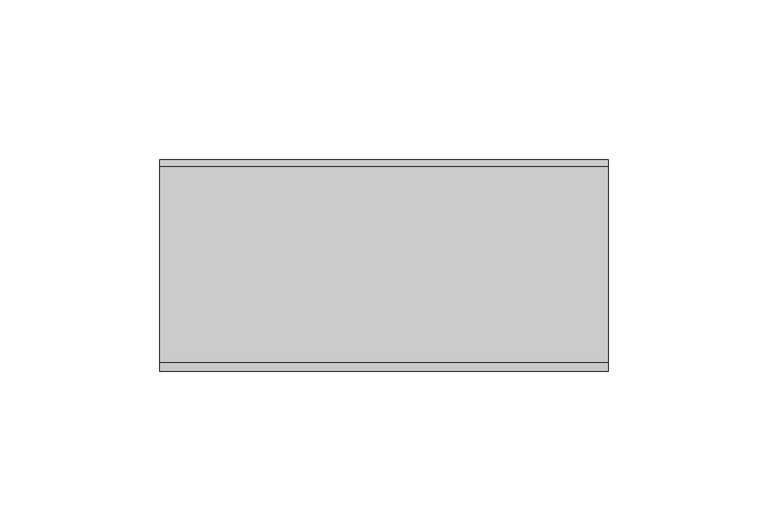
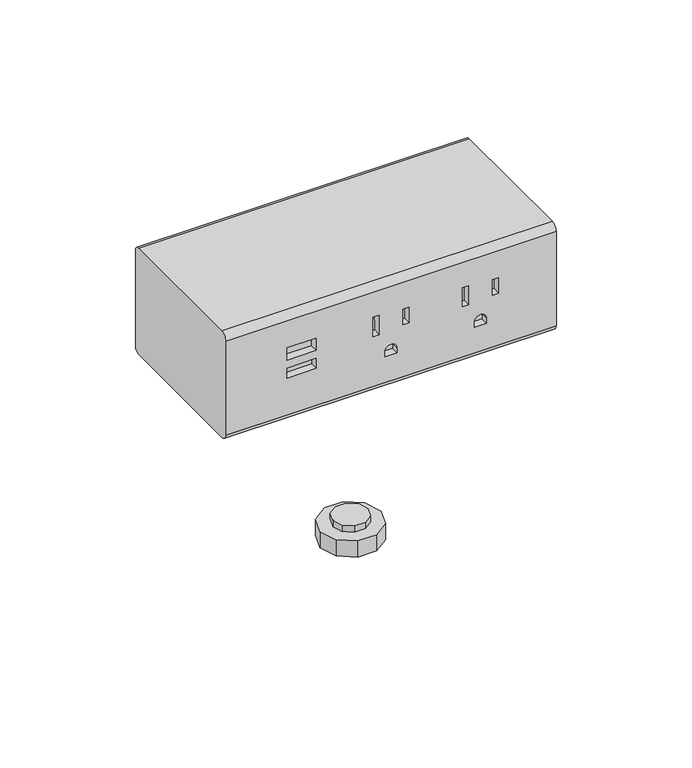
"""IFC4 building model written with IfcOpenShell, lengths in millimetres: furniture geometry, HON - Voi - Dean Power Module Clamp : Dean Power Module Clamp."""

from ifc_helpers import new_model, si_unit, frame, origin, place, context, project, spatial, polyline, circle_curve, ellipse_curve, outline, extrude, source, transform, mapped, element, save
from ifc_brep_helpers import plane_surface, cylinder_surface, revolved_surface, advanced_brep


def furniture_91dbd727(model_context):
    return source(origin(), model_context, "Body", "SolidModel", [
        advanced_brep(
        [(70.5359503, 0.5643146, 772.9745615), (70.5359503, 0.5643104, 816.3711592), (70.5359503, -1.5317365, 818.4672057), (70.5359503, -62.9772354, 818.4671998), (70.5359503, -65.8131747, 815.63126), (70.5359503, -65.8131706, 773.165726), (70.5359503, -63.3626237, 770.7151795), (70.5359503, -1.6950611, 770.7151854), (-70.2041887, 0.5643146, 772.9745615), (-70.2041887, -1.6950611, 770.7151854), (-70.2041887, -63.3626237, 770.7151795), (-70.2041887, -65.8131706, 773.165726), (-70.2041887, -65.8131747, 815.63126), (-70.2041887, -62.9772354, 818.4671998), (-70.2041887, -1.5317365, 818.4672057), (-70.2041887, 0.5643104, 816.3711592), (-44.1246409, -65.8131735, 803.4423383), (-31.6786528, -65.8131735, 803.4423383), (-31.6786528, -65.813173, 797.949968), (-44.1246409, -65.813173, 797.949968), (-31.6786528, -65.8131722, 789.8076724), (-44.1246409, -65.8131722, 789.8076724), (-44.1246409, -65.8131727, 794.3328658), (-31.6786528, -65.8131727, 794.3328658), (-7.4979703, -65.8131736, 804.3095852), (-4.8055656, -65.8131736, 804.3095852), (-4.8055656, -65.8131728, 795.6373337), (-7.4979703, -65.8131728, 795.6373337), (5.2988974, -65.8131735, 803.4423383), (7.9452368, -65.8131735, 803.4423383), (7.9452368, -65.8131729, 796.4804521), (5.2988974, -65.8131729, 796.4804521), (2.8398434, -65.8131719, 786.8428137), (2.8398434, -65.8131717, 784.8174958), (-2.4433551, -65.8131717, 784.8174958), (-2.4433551, -65.8131719, 786.8428137), (30.6020297, -65.8131736, 804.3095852), (33.2944344, -65.8131736, 804.3095852), (33.2944344, -65.8131728, 795.6373337), (30.6020297, -65.8131728, 795.6373337), (43.3988974, -65.8131735, 803.4423383), (46.0452368, -65.8131735, 803.4423383), (46.0452368, -65.8131729, 796.4804521), (43.3988974, -65.8131729, 796.4804521), (40.9398434, -65.8131719, 786.8428137), (40.9398434, -65.8131717, 784.8174958), (35.6566449, -65.8131717, 784.8174958), (35.6566449, -65.8131719, 786.8428137), (-31.6786528, -62.1692992, 803.394078), (-44.1246409, -62.1692992, 803.394078), (-44.1246409, -62.2420285, 797.902671), (-31.6786528, -62.2420285, 797.902671), (-44.1246409, -62.3498478, 789.7618035), (-31.6786528, -62.3498478, 789.7618035), (-31.6786528, -62.2899258, 794.2862031), (-44.1246409, -62.2899258, 794.2862031), (-4.8055656, -62.1578152, 804.2611729), (-7.4979703, -62.1578152, 804.2611729), (-7.4979703, -62.2726521, 795.5904423), (-4.8055656, -62.2726521, 795.5904423), (7.9452368, -62.1692992, 803.394078), (5.2988974, -62.1692992, 803.394078), (5.2988974, -62.2614877, 796.4334128), (7.9452368, -62.2614877, 796.4334128), (2.8398434, -62.4159272, 784.772502), (2.8398434, -62.3891082, 786.7974647), (-2.4433551, -62.3891082, 786.7974647), (-2.4433551, -62.4159272, 784.772502), (33.2944344, -62.1578152, 804.2611729), (30.6020297, -62.1578152, 804.2611729), (30.6020297, -62.2726521, 795.5904423), (33.2944344, -62.2726521, 795.5904423), (46.0452368, -62.1692992, 803.394078), (43.3988974, -62.1692992, 803.394078), (43.3988974, -62.2614877, 796.4334128), (46.0452368, -62.2614877, 796.4334128), (40.9398434, -62.4159272, 784.772502), (40.9398434, -62.3891082, 786.7974647), (35.6566449, -62.3891082, 786.7974647), (35.6566449, -62.4159272, 784.772502)],
        [
            (0, 1),
            (1, 2, circle_curve(frame((70.5359503, -1.5317363, 816.371159), z_axis=(1.0, 0.0, 0.0), x_axis=(0.0, -0.9483236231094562, -0.31730475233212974)), 2.0960467)),
            (2, 3),
            (3, 4, circle_curve(frame((70.5359503, -62.9772351, 815.6312602), z_axis=(1.0, 0.0, 0.0), x_axis=(0.0, -0.9483236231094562, -0.31730475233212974)), 2.8359396)),
            (4, 5),
            (5, 6, circle_curve(frame((70.5359503, -63.3626239, 773.1657262), z_axis=(1.0, 0.0, 0.0), x_axis=(0.0, -0.9483236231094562, -0.31730475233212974)), 2.4505467)),
            (6, 7),
            (7, 0, circle_curve(frame((70.5359503, -1.6950614, 772.9745613), z_axis=(1.0, 0.0, 0.0), x_axis=(0.0, -0.9483236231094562, -0.31730475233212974)), 2.2593759)),
            (8, 9, circle_curve(frame((-70.2041887, -1.6950614, 772.9745613), z_axis=(-1.0, 0.0, 0.0), x_axis=(0.0, -0.9483236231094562, -0.31730475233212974)), 2.2593759)),
            (9, 10),
            (10, 11, circle_curve(frame((-70.2041887, -63.3626239, 773.1657262), z_axis=(-1.0, 0.0, 0.0), x_axis=(0.0, -0.9483236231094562, -0.31730475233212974)), 2.4505467)),
            (11, 12),
            (12, 13, circle_curve(frame((-70.2041887, -62.9772351, 815.6312602), z_axis=(-1.0, 0.0, 0.0), x_axis=(0.0, -0.9483236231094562, -0.31730475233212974)), 2.8359396)),
            (13, 14),
            (14, 15, circle_curve(frame((-70.2041887, -1.5317363, 816.371159), z_axis=(-1.0, 0.0, 0.0), x_axis=(0.0, -0.9483236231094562, -0.31730475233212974)), 2.0960467)),
            (15, 8),
            (0, 8),
            (15, 1),
            (14, 2),
            (13, 3),
            (12, 4),
            (11, 5),
            (16, 17),
            (17, 18),
            (18, 19),
            (19, 16),
            (20, 21),
            (21, 22),
            (22, 23),
            (23, 20),
            (24, 25),
            (25, 26),
            (26, 27),
            (27, 24),
            (28, 29),
            (29, 30),
            (30, 31),
            (31, 28),
            (32, 33),
            (33, 34),
            (34, 35),
            (35, 32, ellipse_curve(frame((0.1982441, -65.8131719, 786.8428137), z_axis=(0.0, 0.9999999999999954, 9.608515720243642e-08), x_axis=(0.0, -9.608514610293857e-08, 0.9999999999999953)), 2.641831, 2.6415993)),
            (36, 37),
            (37, 38),
            (38, 39),
            (39, 36),
            (40, 41),
            (41, 42),
            (42, 43),
            (43, 40),
            (44, 45),
            (45, 46),
            (46, 47),
            (47, 44, ellipse_curve(frame((38.2982441, -65.8131719, 786.8428137), z_axis=(0.0, 0.9999999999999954, 9.608515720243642e-08), x_axis=(0.0, -9.608514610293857e-08, 0.9999999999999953)), 2.641831, 2.6415993)),
            (10, 6),
            (9, 7),
            (48, 49),
            (49, 50),
            (50, 51),
            (51, 48),
            (52, 53),
            (53, 54),
            (54, 55),
            (55, 52),
            (56, 57),
            (57, 58),
            (58, 59),
            (59, 56),
            (60, 61),
            (61, 62),
            (62, 63),
            (63, 60),
            (64, 65),
            (65, 66, circle_curve(frame((0.1982441, -62.3891082, 786.7974647), z_axis=(0.0, -0.9999123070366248, 0.013243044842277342), x_axis=(1.0, 0.0, 0.0)), 2.6415993)),
            (66, 67),
            (67, 64),
            (68, 69),
            (69, 70),
            (70, 71),
            (71, 68),
            (72, 73),
            (73, 74),
            (74, 75),
            (75, 72),
            (76, 77),
            (77, 78, circle_curve(frame((38.2982441, -62.3891082, 786.7974647), z_axis=(0.0, -0.9999123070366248, 0.013243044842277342), x_axis=(1.0, 0.0, 0.0)), 2.6415993)),
            (78, 79),
            (79, 76),
            (48, 17),
            (16, 49),
            (19, 50),
            (18, 51),
            (52, 21),
            (20, 53),
            (23, 54),
            (22, 55),
            (56, 25),
            (24, 57),
            (27, 58),
            (26, 59),
            (60, 29),
            (28, 61),
            (31, 62),
            (30, 63),
            (64, 33),
            (32, 65),
            (35, 66),
            (34, 67),
            (68, 37),
            (36, 69),
            (39, 70),
            (38, 71),
            (72, 41),
            (40, 73),
            (43, 74),
            (42, 75),
            (76, 45),
            (44, 77),
            (47, 78),
            (46, 79),
        ],
        [
            plane_surface(frame((70.5359503, 0.5643104, 816.4351737), z_axis=(1.0000000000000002, 0.0, 0.0), x_axis=(0.0, -9.608515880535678e-08, 0.9999999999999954))),
            plane_surface(frame((-70.2041887, 0.5643104, 816.4351737), z_axis=(-1.0000000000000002, 0.0, 0.0), x_axis=(0.0, 9.608515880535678e-08, -0.9999999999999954))),
            plane_surface(frame((70.5359503, 0.5643146, 772.9745615), z_axis=(0.0, 0.9999999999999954, 9.608515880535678e-08), x_axis=(-1.0, 0.0, 0.0))),
            cylinder_surface(frame((-70.2041887, -1.5317363, 816.371159), z_axis=(1.0, 0.0, 0.0), x_axis=(0.0, -0.9483236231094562, -0.31730475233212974)), 2.0960467),
            plane_surface(frame((70.5359503, -1.5317365, 818.4672057), z_axis=(0.0, -9.608515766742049e-08, 0.9999999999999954), x_axis=(-1.0, 0.0, 0.0))),
            cylinder_surface(frame((-70.2041887, -62.9772351, 815.6312602), z_axis=(1.0, 0.0, 0.0), x_axis=(0.0, -0.9483236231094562, -0.31730475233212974)), 2.8359396),
            plane_surface(frame((70.5359503, -65.8131747, 815.63126), z_axis=(0.0, -0.9999999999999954, -9.608515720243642e-08), x_axis=(-1.0, 0.0, 0.0))),
            cylinder_surface(frame((-70.2041887, -63.3626239, 773.1657262), z_axis=(1.0, 0.0, 0.0), x_axis=(0.0, -0.9483236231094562, -0.31730475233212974)), 2.4505467),
            plane_surface(frame((70.5359503, -63.3626237, 770.7151795), z_axis=(0.0, 9.608515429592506e-08, -0.9999999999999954), x_axis=(-1.0, 0.0, 0.0))),
            cylinder_surface(frame((-70.2041887, -1.6950614, 772.9745613), z_axis=(1.0, 0.0, 0.0), x_axis=(0.0, -0.9483236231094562, -0.31730475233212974)), 2.2593759),
            plane_surface(frame((-44.1246409, -62.1692992, 803.394078), z_axis=(0.0, -0.9999123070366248, 0.013243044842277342), x_axis=(1.0, 0.0, 0.0))),
            plane_surface(frame((-31.6786528, -73.7612869, 803.5476047), z_axis=(0.0, -0.013243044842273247, -0.9999123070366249), x_axis=(0.0, 0.9999123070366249, -0.013243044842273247))),
            plane_surface(frame((-44.1246409, -73.7612869, 803.5476047), z_axis=(1.0000000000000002, 0.0, 0.0), x_axis=(0.0, 0.9999123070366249, -0.013243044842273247))),
            plane_surface(frame((-44.1246409, -73.8340162, 798.0561977), z_axis=(0.0, 0.013243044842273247, 0.9999123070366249), x_axis=(0.0, 0.9999123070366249, -0.013243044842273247))),
            plane_surface(frame((-31.6786528, -73.8340162, 798.0561977), z_axis=(-1.0000000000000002, 0.0, 0.0), x_axis=(0.0, 0.9999123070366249, -0.013243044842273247))),
            plane_surface(frame((-44.1246409, -73.9418355, 789.9153301), z_axis=(0.0, 0.013243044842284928, 0.9999123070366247), x_axis=(0.0, 0.9999123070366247, -0.013243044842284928))),
            plane_surface(frame((-31.6786528, -73.9418355, 789.9153301), z_axis=(-1.0, 0.0, 0.0), x_axis=(0.0, 0.9999123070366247, -0.013243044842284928))),
            plane_surface(frame((-31.6786528, -73.8819134, 794.4397298), z_axis=(0.0, -0.013243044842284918, -0.9999123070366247), x_axis=(0.0, 0.9999123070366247, -0.013243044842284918))),
            plane_surface(frame((-44.1246409, -73.8819134, 794.4397298), z_axis=(1.0, 0.0, 0.0), x_axis=(0.0, 0.9999123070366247, -0.013243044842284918))),
            plane_surface(frame((-4.8055656, -73.7498029, 804.4146996), z_axis=(0.0, -0.013243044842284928, -0.9999123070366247), x_axis=(0.0, 0.9999123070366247, -0.013243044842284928))),
            plane_surface(frame((-7.4979703, -73.7498029, 804.4146996), z_axis=(1.0, 0.0, 0.0), x_axis=(0.0, 0.9999123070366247, -0.013243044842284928))),
            plane_surface(frame((-7.4979703, -73.8646398, 795.743969), z_axis=(0.0, 0.013243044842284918, 0.9999123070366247), x_axis=(0.0, 0.9999123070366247, -0.013243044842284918))),
            plane_surface(frame((-4.8055656, -73.8646398, 795.743969), z_axis=(-1.0, 0.0, 0.0), x_axis=(0.0, 0.9999123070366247, -0.013243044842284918))),
            plane_surface(frame((7.9452368, -73.7612869, 803.5476047), z_axis=(0.0, -0.013243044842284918, -0.9999123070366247), x_axis=(0.0, 0.9999123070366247, -0.013243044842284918))),
            plane_surface(frame((5.2988974, -73.7612869, 803.5476047), z_axis=(1.0, 0.0, 0.0), x_axis=(0.0, 0.9999123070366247, -0.013243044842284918))),
            plane_surface(frame((5.2988974, -73.8534754, 796.5869395), z_axis=(0.0, 0.013243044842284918, 0.9999123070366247), x_axis=(0.0, 0.9999123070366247, -0.013243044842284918))),
            plane_surface(frame((7.9452368, -73.8534754, 796.5869395), z_axis=(-1.0, 0.0, 0.0), x_axis=(0.0, 0.9999123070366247, -0.013243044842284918))),
            plane_surface(frame((2.8398434, -74.0079149, 784.9260287), z_axis=(-1.0, 0.0, 0.0), x_axis=(0.0, 0.9999123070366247, -0.013243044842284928))),
            revolved_surface(polyline([(2.8398434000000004, -65.84815497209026, 786.8432770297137), (2.8398434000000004, -62.38910819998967, 786.7974647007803)]), (0.1982441, -4.809123, 786.0348635), (0.0, -0.9999123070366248, 0.013243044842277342)),
            plane_surface(frame((-2.4433551, -73.9810958, 786.9509914), z_axis=(1.0, 0.0, 0.0), x_axis=(0.0, 0.9999123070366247, -0.013243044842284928))),
            plane_surface(frame((-2.4433551, -74.0079149, 784.9260287), z_axis=(0.0, 0.013243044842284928, 0.9999123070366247), x_axis=(0.0, 0.9999123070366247, -0.013243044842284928))),
            plane_surface(frame((33.2944344, -73.7498029, 804.4146996), z_axis=(0.0, -0.013243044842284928, -0.9999123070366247), x_axis=(0.0, 0.9999123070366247, -0.013243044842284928))),
            plane_surface(frame((30.6020297, -73.7498029, 804.4146996), z_axis=(1.0, 0.0, 0.0), x_axis=(0.0, 0.9999123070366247, -0.013243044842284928))),
            plane_surface(frame((30.6020297, -73.8646398, 795.743969), z_axis=(0.0, 0.013243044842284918, 0.9999123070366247), x_axis=(0.0, 0.9999123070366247, -0.013243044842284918))),
            plane_surface(frame((33.2944344, -73.8646398, 795.743969), z_axis=(-1.0, 0.0, 0.0), x_axis=(0.0, 0.9999123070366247, -0.013243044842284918))),
            plane_surface(frame((46.0452368, -73.7612869, 803.5476047), z_axis=(0.0, -0.013243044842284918, -0.9999123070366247), x_axis=(0.0, 0.9999123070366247, -0.013243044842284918))),
            plane_surface(frame((43.3988974, -73.7612869, 803.5476047), z_axis=(1.0, 0.0, 0.0), x_axis=(0.0, 0.9999123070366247, -0.013243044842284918))),
            plane_surface(frame((43.3988974, -73.8534754, 796.5869395), z_axis=(0.0, 0.013243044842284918, 0.9999123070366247), x_axis=(0.0, 0.9999123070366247, -0.013243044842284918))),
            plane_surface(frame((46.0452368, -73.8534754, 796.5869395), z_axis=(-1.0, 0.0, 0.0), x_axis=(0.0, 0.9999123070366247, -0.013243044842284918))),
            plane_surface(frame((40.9398434, -74.0079149, 784.9260287), z_axis=(-1.0, 0.0, 0.0), x_axis=(0.0, 0.9999123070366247, -0.013243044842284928))),
            revolved_surface(polyline([(40.9398434, -65.84815497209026, 786.8432770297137), (40.9398434, -62.38910819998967, 786.7974647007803)]), (38.2982441, -4.809123, 786.0348635), (0.0, -0.9999123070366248, 0.013243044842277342)),
            plane_surface(frame((35.6566449, -73.9810958, 786.9509914), z_axis=(1.0, 0.0, 0.0), x_axis=(0.0, 0.9999123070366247, -0.013243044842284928))),
            plane_surface(frame((35.6566449, -74.0079149, 784.9260287), z_axis=(0.0, 0.013243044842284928, 0.9999123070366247), x_axis=(0.0, 0.9999123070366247, -0.013243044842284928))),
        ],
        [
            (0, [[1, 2, 3, 4, 5, 6, 7, 8]]),
            (1, [[9, 10, 11, 12, 13, 14, 15, 16]]),
            (2, [[-1, 17, -16, 18]]),
            (3, [[-2, -18, -15, 19]]),
            (4, [[-3, -19, -14, 20]]),
            (5, [[-4, -20, -13, 21]]),
            (6, [[-5, -21, -12, 22], [23, 24, 25, 26], [27, 28, 29, 30], [31, 32, 33, 34], [35, 36, 37, 38], [39, 40, 41, 42], [43, 44, 45, 46], [47, 48, 49, 50], [51, 52, 53, 54]]),
            (7, [[-6, -22, -11, 55]]),
            (8, [[-7, -55, -10, 56]]),
            (9, [[-8, -56, -9, -17]]),
            (10, [[57, 58, 59, 60]]),
            (10, [[61, 62, 63, 64]]),
            (10, [[65, 66, 67, 68]]),
            (10, [[69, 70, 71, 72]]),
            (10, [[73, 74, 75, 76]]),
            (10, [[77, 78, 79, 80]]),
            (10, [[81, 82, 83, 84]]),
            (10, [[85, 86, 87, 88]]),
            (11, [[-57, 89, -23, 90]]),
            (12, [[-58, -90, -26, 91]]),
            (13, [[-59, -91, -25, 92]]),
            (14, [[-60, -92, -24, -89]]),
            (15, [[-61, 93, -27, 94]]),
            (16, [[-62, -94, -30, 95]]),
            (17, [[-63, -95, -29, 96]]),
            (18, [[-64, -96, -28, -93]]),
            (19, [[-65, 97, -31, 98]]),
            (20, [[-66, -98, -34, 99]]),
            (21, [[-67, -99, -33, 100]]),
            (22, [[-68, -100, -32, -97]]),
            (23, [[-69, 101, -35, 102]]),
            (24, [[-70, -102, -38, 103]]),
            (25, [[-71, -103, -37, 104]]),
            (26, [[-72, -104, -36, -101]]),
            (27, [[-73, 105, -39, 106]]),
            (28, [[-74, -106, -42, 107]]),
            (29, [[-75, -107, -41, 108]]),
            (30, [[-76, -108, -40, -105]]),
            (31, [[-77, 109, -43, 110]]),
            (32, [[-78, -110, -46, 111]]),
            (33, [[-79, -111, -45, 112]]),
            (34, [[-80, -112, -44, -109]]),
            (35, [[-81, 113, -47, 114]]),
            (36, [[-82, -114, -50, 115]]),
            (37, [[-83, -115, -49, 116]]),
            (38, [[-84, -116, -48, -113]]),
            (39, [[-85, 117, -51, 118]]),
            (40, [[-86, -118, -54, 119]]),
            (41, [[-87, -119, -53, 120]]),
            (42, [[-88, -120, -52, -117]]),
        ],
    ),
        extrude(outline(polyline([(-10.2914732, -28.468528), (-3.808287, -23.7582175), (4.0515607, -23.7582175), (10.5721338, -28.4956912), (13.0559742, -36.1401659), (10.6177734, -43.6441764), (4.1980549, -48.3083749), (-3.9348708, -48.3083749), (-10.370891, -43.6055923), (-12.7903473, -36.1592716), (-10.2914732, -28.468528)])), frame((0.0, 0.0, 684.58692), z_axis=(0.0, 0.0, 1.0), x_axis=(1.0, 0.0, 0.0)), (0.0, 0.0, 1.0), 7.265096),
        extrude(outline(polyline([(-2.1849836, -28.9538209), (2.3819493, -28.9538209), (6.2658509, -31.6733581), (7.6132664, -36.0805556), (6.1852665, -40.4754875), (2.4403563, -43.196324), (-2.247688, -43.196324), (-6.06398, -40.5241275), (-7.3930927, -36.1767958), (-5.9303722, -31.675005), (-2.1849836, -28.9538209)])), frame((0.0, 0.0, 691.724275), z_axis=(0.0, 0.0, 1.0), x_axis=(1.0, 0.0, 0.0)), (0.0, 0.0, 1.0), 3.251255),
    ])


if __name__ == "__main__":
    model = new_model("IFC4")
    model_context = context("Model", 3, world=origin())
    ifc_project = project(units=[si_unit("LENGTHUNIT", "METRE", prefix="MILLI")], contexts=[model_context])
    site = spatial("IfcSite", under=ifc_project)
    building = spatial("IfcBuilding", under=site)
    placement = place(None, origin())
    furniture_shape = furniture_91dbd727(model_context)
    element("IfcFurniture", 1, ObjectType="HON - Voi - Dean Power Module Clamp : Dean Power Module Clamp", at=placement, inside=building, context=model_context, shape_type="MappedRepresentation", body=[
        mapped(furniture_shape, transform((0.0, 0.0, 0.0), x_axis=(1.0, 0.0, 0.0), y_axis=(0.0, 1.0, 0.0), z_axis=(0.0, 0.0, 1.0))),
    ])
    save(model, "model.ifc")
